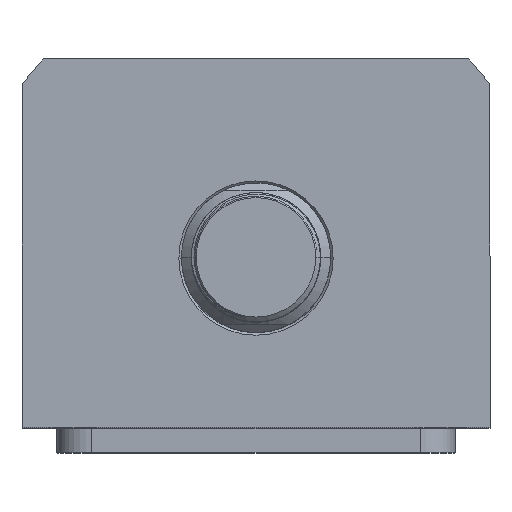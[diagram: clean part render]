
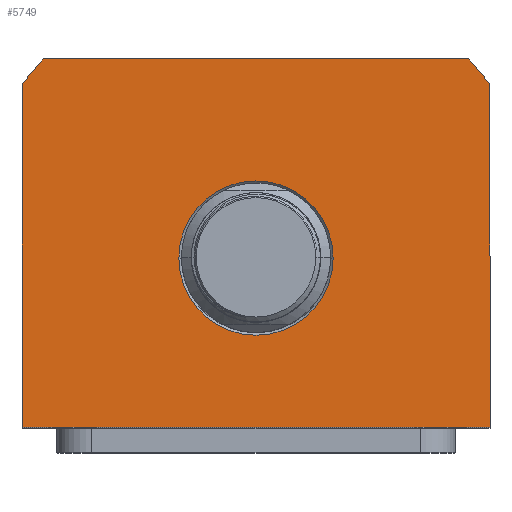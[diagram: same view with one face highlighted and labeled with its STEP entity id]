
A CAD part, top view. The second image highlights one B-rep face of the part: STEP entity #5749.
In plain terms, the highlighted planar face has unit normal (0, 0, 1).
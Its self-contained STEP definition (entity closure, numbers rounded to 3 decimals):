
#34 = VERTEX_POINT ( 'NONE', #6204 ) ;
#58 = DIRECTION ( 'NONE',  ( 0., 0., 1. ) ) ;
#760 = CARTESIAN_POINT ( 'NONE',  ( 47., -34., 60. ) ) ;
#1035 = CARTESIAN_POINT ( 'NONE',  ( 0., 0., 60. ) ) ;
#1131 = VERTEX_POINT ( 'NONE', #18288 ) ;
#1169 = DIRECTION ( 'NONE',  ( 1., 0., 0. ) ) ;
#1255 = DIRECTION ( 'NONE',  ( 1., 0., 0. ) ) ;
#2488 = VERTEX_POINT ( 'NONE', #4216 ) ;
#2846 = ORIENTED_EDGE ( 'NONE', *, *, #18080, .T. ) ;
#3054 = EDGE_CURVE ( 'NONE', #1131, #10149, #15102, .T. ) ;
#3058 = LINE ( 'NONE', #13639, #7812 ) ;
#3259 = DIRECTION ( 'NONE',  ( 1., 0., 0. ) ) ;
#3373 = DIRECTION ( 'NONE',  ( 1., 0., 0. ) ) ;
#3928 = CARTESIAN_POINT ( 'NONE',  ( -42.688, 40., 60. ) ) ;
#4216 = CARTESIAN_POINT ( 'NONE',  ( 42.688, 40., 60. ) ) ;
#4401 = CIRCLE ( 'NONE', #8231, 58.5 ) ;
#4461 = DIRECTION ( 'NONE',  ( 0., 0., -1. ) ) ;
#4565 = EDGE_CURVE ( 'NONE', #2488, #18524, #19593, .T. ) ;
#4744 = VECTOR ( 'NONE', #10771, 1000. ) ;
#5281 = LINE ( 'NONE', #760, #12911 ) ;
#5296 = VECTOR ( 'NONE', #17545, 1000. ) ;
#5501 = CARTESIAN_POINT ( 'NONE',  ( 47., -34., 60. ) ) ;
#5531 = EDGE_CURVE ( 'NONE', #17909, #13963, #5281, .T. ) ;
#5749 = ADVANCED_FACE ( 'NONE', ( #11214, #18344 ), #17781, .T. ) ;
#5859 = ORIENTED_EDGE ( 'NONE', *, *, #6855, .T. ) ;
#6204 = CARTESIAN_POINT ( 'NONE',  ( -47., 34.832, 60. ) ) ;
#6562 = ORIENTED_EDGE ( 'NONE', *, *, #10197, .T. ) ;
#6855 = EDGE_CURVE ( 'NONE', #13937, #2488, #9053, .T. ) ;
#7278 = CARTESIAN_POINT ( 'NONE',  ( 0., 0., 60. ) ) ;
#7755 = EDGE_CURVE ( 'NONE', #13963, #13937, #11887, .T. ) ;
#7812 = VECTOR ( 'NONE', #10648, 1000. ) ;
#7948 = DIRECTION ( 'NONE',  ( 0., 0., 1. ) ) ;
#8231 = AXIS2_PLACEMENT_3D ( 'NONE', #18585, #58, #3259 ) ;
#8339 = CARTESIAN_POINT ( 'NONE',  ( -47., -34., 60. ) ) ;
#8484 = ORIENTED_EDGE ( 'NONE', *, *, #3054, .T. ) ;
#8724 = DIRECTION ( 'NONE',  ( 0., 0., 1. ) ) ;
#8831 = EDGE_LOOP ( 'NONE', ( #2846, #8484 ) ) ;
#9053 = CIRCLE ( 'NONE', #16404, 58.5 ) ;
#9741 = AXIS2_PLACEMENT_3D ( 'NONE', #1035, #8724, #1169 ) ;
#10149 = VERTEX_POINT ( 'NONE', #10302 ) ;
#10197 = EDGE_CURVE ( 'NONE', #34, #17909, #3058, .T. ) ;
#10302 = CARTESIAN_POINT ( 'NONE',  ( 15.5, 0., 60. ) ) ;
#10348 = DIRECTION ( 'NONE',  ( 0., 0., -1. ) ) ;
#10648 = DIRECTION ( 'NONE',  ( 0., -1., 0. ) ) ;
#10655 = DIRECTION ( 'NONE',  ( 1., 0., 0. ) ) ;
#10771 = DIRECTION ( 'NONE',  ( 0., 1., 0. ) ) ;
#11094 = ORIENTED_EDGE ( 'NONE', *, *, #7755, .T. ) ;
#11214 = FACE_BOUND ( 'NONE', #8831, .T. ) ;
#11835 = ORIENTED_EDGE ( 'NONE', *, *, #4565, .T. ) ;
#11887 = LINE ( 'NONE', #16863, #4744 ) ;
#12178 = EDGE_LOOP ( 'NONE', ( #13552, #11094, #5859, #11835, #13929, #6562 ) ) ;
#12308 = CARTESIAN_POINT ( 'NONE',  ( 0., 0., 60. ) ) ;
#12911 = VECTOR ( 'NONE', #14467, 1000. ) ;
#12980 = CARTESIAN_POINT ( 'NONE',  ( -42.688, 40., 60. ) ) ;
#13150 = AXIS2_PLACEMENT_3D ( 'NONE', #7278, #10348, #1255 ) ;
#13552 = ORIENTED_EDGE ( 'NONE', *, *, #5531, .T. ) ;
#13639 = CARTESIAN_POINT ( 'NONE',  ( -47., -34., 60. ) ) ;
#13908 = AXIS2_PLACEMENT_3D ( 'NONE', #19568, #4461, #10655 ) ;
#13929 = ORIENTED_EDGE ( 'NONE', *, *, #15433, .T. ) ;
#13937 = VERTEX_POINT ( 'NONE', #14698 ) ;
#13963 = VERTEX_POINT ( 'NONE', #5501 ) ;
#14467 = DIRECTION ( 'NONE',  ( 1., 0., 0. ) ) ;
#14698 = CARTESIAN_POINT ( 'NONE',  ( 47., 34.832, 60. ) ) ;
#15102 = CIRCLE ( 'NONE', #13908, 15.5 ) ;
#15433 = EDGE_CURVE ( 'NONE', #18524, #34, #4401, .T. ) ;
#16404 = AXIS2_PLACEMENT_3D ( 'NONE', #12308, #7948, #3373 ) ;
#16863 = CARTESIAN_POINT ( 'NONE',  ( 47., 34.832, 60. ) ) ;
#17545 = DIRECTION ( 'NONE',  ( -1., 0., 0. ) ) ;
#17781 = PLANE ( 'NONE',  #9741 ) ;
#17909 = VERTEX_POINT ( 'NONE', #8339 ) ;
#18080 = EDGE_CURVE ( 'NONE', #10149, #1131, #19422, .T. ) ;
#18288 = CARTESIAN_POINT ( 'NONE',  ( -15.5, 0., 60. ) ) ;
#18344 = FACE_OUTER_BOUND ( 'NONE', #12178, .T. ) ;
#18524 = VERTEX_POINT ( 'NONE', #3928 ) ;
#18585 = CARTESIAN_POINT ( 'NONE',  ( 0., 0., 60. ) ) ;
#19422 = CIRCLE ( 'NONE', #13150, 15.5 ) ;
#19568 = CARTESIAN_POINT ( 'NONE',  ( 0., 0., 60. ) ) ;
#19593 = LINE ( 'NONE', #12980, #5296 ) ;
